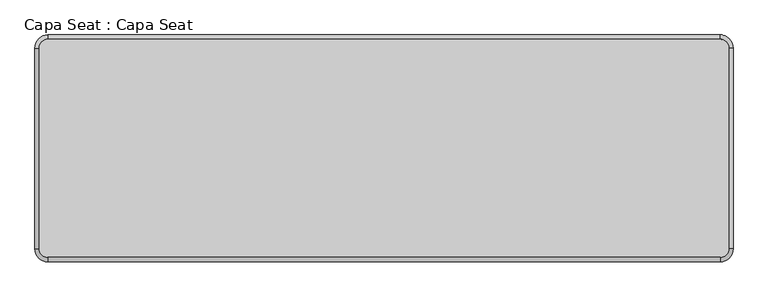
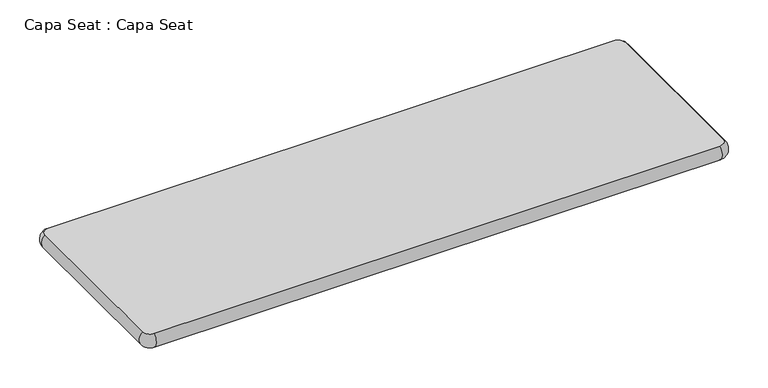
"""IFC4 building model written with IfcOpenShell, lengths in millimetres: furniture geometry, Capa Seat : Capa Seat."""

from ifc_helpers import new_model, si_unit, point, frame, origin, place, context, project, spatial, circle_curve, ellipse_curve, trimmed, source, transform, mapped, element, save
from ifc_brep_helpers import plane_surface, cylinder_surface, revolved_surface, advanced_brep


def capa_seat_capa_seat_79f1ca8e(model_context):
    return source(origin(), model_context, "Body", "AdvancedBrep", [
        advanced_brep(
        [(-770.0, -10.0, 40.0), (-790.0, -30.0, 40.0), (-790.0, -490.0, 40.0), (-770.0, -510.0, 40.0), (770.0, -510.0, 40.0), (790.0, -490.0, 40.0), (790.0, -30.0, 40.0), (769.9999885, -10.0, 40.0), (-790.0, -30.0, 0.0), (-770.0, -10.0, 0.0), (770.0, -10.0, 0.0), (790.0, -30.0, 0.0), (790.0, -490.0, 0.0), (770.0, -510.0, 0.0), (-770.0, -510.0, 0.0), (-790.0, -490.0, 0.0)],
        [
            (0, 1, circle_curve(frame((-770.0, -30.0, 40.0), z_axis=(0.0, 0.0, 1.0), x_axis=(0.0, 1.0, 0.0)), 20.0)),
            (1, 2),
            (2, 3, circle_curve(frame((-770.0, -490.0, 40.0), z_axis=(0.0, 0.0, 1.0), x_axis=(-1.0, 0.0, 0.0)), 20.0)),
            (3, 4),
            (4, 5, circle_curve(frame((770.0, -490.0, 40.0), z_axis=(0.0, 0.0, 1.0), x_axis=(0.0, -1.0, 0.0)), 20.0)),
            (5, 6),
            (6, 7, circle_curve(frame((770.0, -30.0, 40.0), z_axis=(0.0, 0.0, 1.0), x_axis=(1.0, 0.0, 0.0)), 20.0)),
            (7, 0),
            (8, 9, circle_curve(frame((-770.0, -30.0, 0.0), z_axis=(0.0, 0.0, -1.0), x_axis=(0.0, 1.0, 0.0)), 20.0)),
            (9, 10),
            (10, 11, circle_curve(frame((770.0, -30.0, 0.0), z_axis=(0.0, 0.0, -1.0), x_axis=(1.0, 0.0, 0.0)), 20.0)),
            (11, 12),
            (12, 13, circle_curve(frame((770.0, -490.0, 0.0), z_axis=(0.0, 0.0, -1.0), x_axis=(0.0, -1.0, 0.0)), 20.0)),
            (13, 14),
            (14, 15, circle_curve(frame((-770.0, -490.0, 0.0), z_axis=(0.0, 0.0, -1.0), x_axis=(-1.0, 0.0, 0.0)), 20.0)),
            (15, 8),
            (0, 9, circle_curve(frame((-770.0, -24.8927182, 20.0), z_axis=(-1.0, 0.0, 0.0), x_axis=(0.0, -1.0, 0.0)), 24.9357786)),
            (8, 1, circle_curve(frame((-775.1072818, -30.0, 20.0), z_axis=(0.0, 1.0, 0.0), x_axis=(1.0, 0.0, 0.0)), 24.9357786)),
            (15, 2, circle_curve(frame((-775.1072818, -490.0, 20.0), z_axis=(0.0, 1.0, 0.0), x_axis=(1.0, 0.0, 0.0)), 24.9357786)),
            (14, 3, circle_curve(frame((-770.0, -495.1072818, 20.0), z_axis=(-1.0, 0.0, 0.0), x_axis=(0.0, 1.0, 0.0)), 24.9357786)),
            (13, 4, circle_curve(frame((770.0, -495.1072818, 20.0), z_axis=(-1.0, 0.0, 0.0), x_axis=(0.0, 1.0, 0.0)), 24.9357786)),
            (12, 5, circle_curve(frame((775.1072818, -490.0, 20.0), z_axis=(0.0, -1.0, 0.0), x_axis=(-1.0, 0.0, 0.0)), 24.9357786)),
            (11, 6, circle_curve(frame((775.1072818, -30.0, 20.0), z_axis=(0.0, -1.0, 0.0), x_axis=(-1.0, 0.0, 0.0)), 24.9357786)),
            (10, 7, circle_curve(frame((770.0, -24.8927182, 20.0), z_axis=(1.0, 0.0, 0.0), x_axis=(0.0, -1.0, 0.0)), 24.9357786)),
        ],
        [
            plane_surface(frame((-770.0, -10.0, 40.0), z_axis=(0.0, 0.0, 1.0), x_axis=(-1.0, 0.0, 0.0))),
            plane_surface(frame((-770.0, -10.0, 0.0), z_axis=(0.0, 0.0, -1.0), x_axis=(1.0, 0.0, 0.0))),
            revolved_surface(trimmed(ellipse_curve(frame((-770.0, -24.8927182, 20.0), z_axis=(1.0, 0.0, 0.0), x_axis=(0.0, -1.0, 0.0)), 24.9357786, 24.9357786), [point((-770.0, -10.0, 0.0))], [point((-770.0, -10.0, 40.0))], True, "CARTESIAN"), (-770.0, -30.0, 40.0), (0.0, 0.0, 1.0)),
            cylinder_surface(frame((-775.1072818, -30.0, 20.0), z_axis=(0.0, 1.0, 0.0), x_axis=(1.0, 0.0, 0.0)), 24.9357786),
            revolved_surface(trimmed(ellipse_curve(frame((-775.1072818, -490.0, 20.0), z_axis=(0.0, 1.0, 0.0), x_axis=(1.0, 0.0, 0.0)), 24.9357786, 24.9357786), [point((-790.0, -490.0, 0.0))], [point((-790.0, -490.0, 40.0))], True, "CARTESIAN"), (-770.0, -490.0, 40.0), (0.0, 0.0, 1.0)),
            cylinder_surface(frame((-770.0, -495.1072818, 20.0), z_axis=(-1.0, 0.0, 0.0), x_axis=(0.0, 1.0, 0.0)), 24.9357786),
            revolved_surface(trimmed(ellipse_curve(frame((770.0, -495.1072818, 20.0), z_axis=(-1.0, 0.0, 0.0), x_axis=(0.0, 1.0, 0.0)), 24.9357786, 24.9357786), [point((770.0, -510.0, 0.0))], [point((770.0, -510.0, 40.0))], True, "CARTESIAN"), (770.0, -490.0, 40.0), (0.0, 0.0, 1.0)),
            cylinder_surface(frame((775.1072818, -490.0, 20.0), z_axis=(0.0, -1.0, 0.0), x_axis=(-1.0, 0.0, 0.0)), 24.9357786),
            revolved_surface(trimmed(ellipse_curve(frame((775.1072818, -30.0, 20.0), z_axis=(0.0, -1.0, 0.0), x_axis=(-1.0, 0.0, 0.0)), 24.9357786, 24.9357786), [point((790.0, -30.0, 0.0))], [point((790.0, -30.0, 40.0))], True, "CARTESIAN"), (770.0, -30.0, 40.0), (0.0, 0.0, 1.0)),
            cylinder_surface(frame((770.0, -24.8927182, 20.0), z_axis=(1.0, 0.0, 0.0), x_axis=(0.0, -1.0, 0.0)), 24.9357786),
        ],
        [
            (0, [[1, 2, 3, 4, 5, 6, 7, 8]]),
            (1, [[9, 10, 11, 12, 13, 14, 15, 16]]),
            (2, [[17, -9, 18, -1]]),
            (3, [[-18, -16, 19, -2]]),
            (4, [[-19, -15, 20, -3]]),
            (5, [[-20, -14, 21, -4]]),
            (6, [[-21, -13, 22, -5]]),
            (7, [[-22, -12, 23, -6]]),
            (8, [[-23, -11, 24, -7]]),
            (9, [[-17, -8, -24, -10]]),
        ],
    ),
    ])


if __name__ == "__main__":
    model = new_model("IFC4")
    model_context = context("Model", 3, world=origin())
    ifc_project = project(units=[si_unit("LENGTHUNIT", "METRE", prefix="MILLI")], contexts=[model_context])
    site = spatial("IfcSite", under=ifc_project)
    building = spatial("IfcBuilding", under=site)
    placement = place(None, origin())
    capa_seat_capa_seat_shape = capa_seat_capa_seat_79f1ca8e(model_context)
    element("IfcFurniture", 1, ObjectType="Capa Seat : Capa Seat", at=placement, inside=building, context=model_context, shape_type="MappedRepresentation", body=[
        mapped(capa_seat_capa_seat_shape, transform((0.0, 0.0, 0.0), x_axis=(1.0, 0.0, 0.0), y_axis=(0.0, 1.0, 0.0), z_axis=(0.0, 0.0, 1.0))),
    ])
    save(model, "model.ifc")
